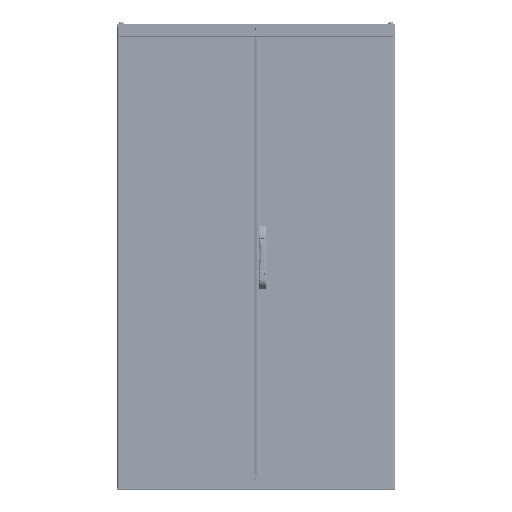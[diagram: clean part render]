
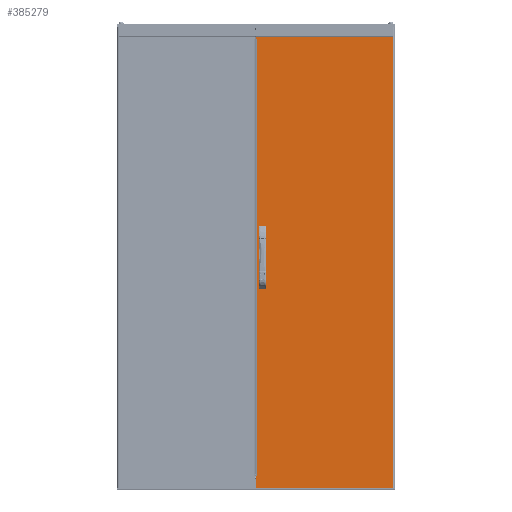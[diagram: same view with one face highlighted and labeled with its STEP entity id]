
A CAD part, top view. The second image highlights one B-rep face of the part: STEP entity #385279.
In plain terms, the highlighted planar face has unit normal (0, 0, 1) as drawn and (0, -1, 0) by its records, which use the part's own axes.
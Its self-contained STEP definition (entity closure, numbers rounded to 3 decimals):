
#784 = DIRECTION ( 'NONE',  ( 0., -1., 0. ) ) ;
#4922 = CARTESIAN_POINT ( 'NONE',  ( 1932.21, 0., -589. ) ) ;
#6219 = PLANE ( 'NONE',  #118475 ) ;
#8284 = DIRECTION ( 'NONE',  ( 0., -1., 0. ) ) ;
#9882 = EDGE_LOOP ( 'NONE', ( #94327, #72635 ) ) ;
#11630 = EDGE_CURVE ( 'NONE', #210668, #138654, #133786, .T. ) ;
#13695 = DIRECTION ( 'NONE',  ( 0., -1., 0. ) ) ;
#14839 = CARTESIAN_POINT ( 'NONE',  ( 958.745, 0., -27. ) ) ;
#20155 = EDGE_CURVE ( 'NONE', #61549, #102252, #159869, .T. ) ;
#20998 = DIRECTION ( 'NONE',  ( 0., 0., -1. ) ) ;
#35706 = DIRECTION ( 'NONE',  ( -1., 0., 0. ) ) ;
#35717 = EDGE_CURVE ( 'NONE', #354387, #138654, #243436, .T. ) ;
#38845 = VERTEX_POINT ( 'NONE', #307408 ) ;
#43918 = EDGE_LOOP ( 'NONE', ( #306745, #370960 ) ) ;
#45093 = CIRCLE ( 'NONE', #157538, 2.85 ) ;
#45331 = VERTEX_POINT ( 'NONE', #146193 ) ;
#52255 = CARTESIAN_POINT ( 'NONE',  ( 0., 0., -589. ) ) ;
#60489 = VECTOR ( 'NONE', #152979, 1000. ) ;
#61549 = VERTEX_POINT ( 'NONE', #280930 ) ;
#63081 = VERTEX_POINT ( 'NONE', #202003 ) ;
#63253 = CIRCLE ( 'NONE', #374399, 2.85 ) ;
#63420 = LINE ( 'NONE', #67494, #68036 ) ;
#64153 = LINE ( 'NONE', #350320, #99828 ) ;
#67359 = EDGE_CURVE ( 'NONE', #63081, #81572, #410079, .T. ) ;
#67397 = VERTEX_POINT ( 'NONE', #337635 ) ;
#67494 = CARTESIAN_POINT ( 'NONE',  ( 0., 0., -22.75 ) ) ;
#68036 = VECTOR ( 'NONE', #166968, 1000. ) ;
#68182 = DIRECTION ( 'NONE',  ( 0., 0., 1. ) ) ;
#69462 = CARTESIAN_POINT ( 'NONE',  ( 0., 0., 0. ) ) ;
#72635 = ORIENTED_EDGE ( 'NONE', *, *, #322997, .F. ) ;
#74372 = VERTEX_POINT ( 'NONE', #353343 ) ;
#76174 = LINE ( 'NONE', #78255, #259566 ) ;
#78255 = CARTESIAN_POINT ( 'NONE',  ( 0., 0., -589. ) ) ;
#81572 = VERTEX_POINT ( 'NONE', #104192 ) ;
#82821 = EDGE_CURVE ( 'NONE', #345431, #225820, #63420, .T. ) ;
#85276 = DIRECTION ( 'NONE',  ( 0., -1., 0. ) ) ;
#87814 = CARTESIAN_POINT ( 'NONE',  ( 1982.99, 0., -589. ) ) ;
#88338 = ORIENTED_EDGE ( 'NONE', *, *, #82821, .F. ) ;
#93961 = FACE_BOUND ( 'NONE', #43918, .T. ) ;
#94327 = ORIENTED_EDGE ( 'NONE', *, *, #305998, .F. ) ;
#97320 = DIRECTION ( 'NONE',  ( 0., 0., -1. ) ) ;
#97773 = AXIS2_PLACEMENT_3D ( 'NONE', #14839, #85276, #20998 ) ;
#99828 = VECTOR ( 'NONE', #68182, 1000. ) ;
#100217 = DIRECTION ( 'NONE',  ( 0., 0., -1. ) ) ;
#102252 = VERTEX_POINT ( 'NONE', #183228 ) ;
#104192 = CARTESIAN_POINT ( 'NONE',  ( 1024.245, 0., -31.25 ) ) ;
#105710 = FACE_BOUND ( 'NONE', #9882, .T. ) ;
#116930 = DIRECTION ( 'NONE',  ( 0., 0., 1. ) ) ;
#118475 = AXIS2_PLACEMENT_3D ( 'NONE', #136816, #8284, #263292 ) ;
#121616 = AXIS2_PLACEMENT_3D ( 'NONE', #319997, #784, #226749 ) ;
#127589 = VECTOR ( 'NONE', #116930, 1000. ) ;
#128271 = CARTESIAN_POINT ( 'NONE',  ( 1106.497, 0., -27. ) ) ;
#129544 = VECTOR ( 'NONE', #195977, 1000. ) ;
#133148 = DIRECTION ( 'NONE',  ( 0., 0., 1. ) ) ;
#133349 = ORIENTED_EDGE ( 'NONE', *, *, #11630, .F. ) ;
#133786 = LINE ( 'NONE', #69462, #129544 ) ;
#136816 = CARTESIAN_POINT ( 'NONE',  ( 0., 0., -589. ) ) ;
#138654 = VERTEX_POINT ( 'NONE', #311704 ) ;
#139306 = CARTESIAN_POINT ( 'NONE',  ( 0., 0., 0. ) ) ;
#143543 = VECTOR ( 'NONE', #133148, 1000. ) ;
#144755 = VECTOR ( 'NONE', #349234, 1000. ) ;
#146193 = CARTESIAN_POINT ( 'NONE',  ( 1932.21, 0., -1.51 ) ) ;
#152979 = DIRECTION ( 'NONE',  ( 1., 0., 0. ) ) ;
#154355 = ORIENTED_EDGE ( 'NONE', *, *, #318572, .F. ) ;
#155647 = VERTEX_POINT ( 'NONE', #260561 ) ;
#155661 = AXIS2_PLACEMENT_3D ( 'NONE', #309401, #13695, #338571 ) ;
#157538 = AXIS2_PLACEMENT_3D ( 'NONE', #128271, #381298, #350176 ) ;
#159869 = CIRCLE ( 'NONE', #199506, 2.85 ) ;
#166968 = DIRECTION ( 'NONE',  ( -1., 0., 0. ) ) ;
#172805 = ORIENTED_EDGE ( 'NONE', *, *, #251397, .T. ) ;
#183228 = CARTESIAN_POINT ( 'NONE',  ( 1106.497, 0., -29.85 ) ) ;
#195297 = CIRCLE ( 'NONE', #155661, 2.85 ) ;
#195314 = DIRECTION ( 'NONE',  ( 1., 0., 0. ) ) ;
#195329 = LINE ( 'NONE', #321757, #209590 ) ;
#195977 = DIRECTION ( 'NONE',  ( 1., 0., 0. ) ) ;
#199506 = AXIS2_PLACEMENT_3D ( 'NONE', #257797, #384349, #100217 ) ;
#202003 = CARTESIAN_POINT ( 'NONE',  ( 958.745, 0., -31.25 ) ) ;
#203560 = LINE ( 'NONE', #139306, #143543 ) ;
#205579 = ORIENTED_EDGE ( 'NONE', *, *, #383819, .F. ) ;
#209590 = VECTOR ( 'NONE', #35706, 1000. ) ;
#210668 = VERTEX_POINT ( 'NONE', #321222 ) ;
#217678 = CARTESIAN_POINT ( 'NONE',  ( 876.493, 0., -27. ) ) ;
#219551 = ORIENTED_EDGE ( 'NONE', *, *, #326791, .T. ) ;
#220715 = EDGE_CURVE ( 'NONE', #45331, #38845, #195329, .T. ) ;
#224276 = VERTEX_POINT ( 'NONE', #52255 ) ;
#225820 = VERTEX_POINT ( 'NONE', #251218 ) ;
#226749 = DIRECTION ( 'NONE',  ( 0., 0., -1. ) ) ;
#230177 = FACE_OUTER_BOUND ( 'NONE', #291830, .T. ) ;
#242144 = CARTESIAN_POINT ( 'NONE',  ( 1024.245, 0., -22.75 ) ) ;
#242246 = ORIENTED_EDGE ( 'NONE', *, *, #321132, .F. ) ;
#242812 = EDGE_CURVE ( 'NONE', #224276, #74372, #203560, .T. ) ;
#243422 = ORIENTED_EDGE ( 'NONE', *, *, #257870, .F. ) ;
#243436 = LINE ( 'NONE', #87814, #127589 ) ;
#251218 = CARTESIAN_POINT ( 'NONE',  ( 958.745, 0., -22.75 ) ) ;
#251397 = EDGE_CURVE ( 'NONE', #210668, #45331, #351283, .T. ) ;
#255551 = LINE ( 'NONE', #384129, #352797 ) ;
#257797 = CARTESIAN_POINT ( 'NONE',  ( 1106.497, 0., -27. ) ) ;
#257870 = EDGE_CURVE ( 'NONE', #74372, #67397, #255551, .T. ) ;
#259184 = FACE_BOUND ( 'NONE', #403932, .T. ) ;
#259566 = VECTOR ( 'NONE', #397650, 1000. ) ;
#260561 = CARTESIAN_POINT ( 'NONE',  ( 876.493, 0., -29.85 ) ) ;
#263292 = DIRECTION ( 'NONE',  ( 0., 0., -1. ) ) ;
#280930 = CARTESIAN_POINT ( 'NONE',  ( 1106.497, 0., -24.15 ) ) ;
#281680 = ORIENTED_EDGE ( 'NONE', *, *, #242812, .F. ) ;
#283834 = ORIENTED_EDGE ( 'NONE', *, *, #35717, .T. ) ;
#291830 = EDGE_LOOP ( 'NONE', ( #133349, #172805, #372162, #219551, #243422, #281680, #154355, #283834 ) ) ;
#300373 = CIRCLE ( 'NONE', #121616, 4.25 ) ;
#305998 = EDGE_CURVE ( 'NONE', #349752, #155647, #195297, .T. ) ;
#306745 = ORIENTED_EDGE ( 'NONE', *, *, #20155, .F. ) ;
#307408 = CARTESIAN_POINT ( 'NONE',  ( 50.78, 0., -1.51 ) ) ;
#309357 = ORIENTED_EDGE ( 'NONE', *, *, #67359, .F. ) ;
#309401 = CARTESIAN_POINT ( 'NONE',  ( 876.493, 0., -27. ) ) ;
#310493 = CARTESIAN_POINT ( 'NONE',  ( 0., 0., -31.25 ) ) ;
#311704 = CARTESIAN_POINT ( 'NONE',  ( 1982.99, 0., 0. ) ) ;
#312281 = EDGE_CURVE ( 'NONE', #102252, #61549, #45093, .T. ) ;
#318572 = EDGE_CURVE ( 'NONE', #354387, #224276, #76174, .T. ) ;
#319997 = CARTESIAN_POINT ( 'NONE',  ( 1024.245, 0., -27. ) ) ;
#321132 = EDGE_CURVE ( 'NONE', #81572, #345431, #300373, .T. ) ;
#321222 = CARTESIAN_POINT ( 'NONE',  ( 1932.21, 0., 0. ) ) ;
#321757 = CARTESIAN_POINT ( 'NONE',  ( 1932.21, 0., -1.51 ) ) ;
#322997 = EDGE_CURVE ( 'NONE', #155647, #349752, #63253, .T. ) ;
#326791 = EDGE_CURVE ( 'NONE', #38845, #67397, #64153, .T. ) ;
#337635 = CARTESIAN_POINT ( 'NONE',  ( 50.78, 0., 0. ) ) ;
#338571 = DIRECTION ( 'NONE',  ( 0., 0., -1. ) ) ;
#345431 = VERTEX_POINT ( 'NONE', #242144 ) ;
#349234 = DIRECTION ( 'NONE',  ( 0., 0., -1. ) ) ;
#349752 = VERTEX_POINT ( 'NONE', #373194 ) ;
#350176 = DIRECTION ( 'NONE',  ( 0., 0., -1. ) ) ;
#350299 = DIRECTION ( 'NONE',  ( 0., -1., 0. ) ) ;
#350320 = CARTESIAN_POINT ( 'NONE',  ( 50.78, 0., -589. ) ) ;
#351283 = LINE ( 'NONE', #4922, #144755 ) ;
#352797 = VECTOR ( 'NONE', #195314, 1000. ) ;
#353343 = CARTESIAN_POINT ( 'NONE',  ( 0., 0., 0. ) ) ;
#354387 = VERTEX_POINT ( 'NONE', #373312 ) ;
#355892 = CIRCLE ( 'NONE', #97773, 4.25 ) ;
#370960 = ORIENTED_EDGE ( 'NONE', *, *, #312281, .F. ) ;
#372162 = ORIENTED_EDGE ( 'NONE', *, *, #220715, .T. ) ;
#373194 = CARTESIAN_POINT ( 'NONE',  ( 876.493, 0., -24.15 ) ) ;
#373312 = CARTESIAN_POINT ( 'NONE',  ( 1982.99, 0., -589. ) ) ;
#374399 = AXIS2_PLACEMENT_3D ( 'NONE', #217678, #350299, #97320 ) ;
#381298 = DIRECTION ( 'NONE',  ( 0., -1., 0. ) ) ;
#383819 = EDGE_CURVE ( 'NONE', #225820, #63081, #355892, .T. ) ;
#384129 = CARTESIAN_POINT ( 'NONE',  ( 0., 0., 0. ) ) ;
#384349 = DIRECTION ( 'NONE',  ( 0., -1., 0. ) ) ;
#385279 = ADVANCED_FACE ( 'NONE', ( #259184, #93961, #105710, #230177 ), #6219, .T. ) ;
#397650 = DIRECTION ( 'NONE',  ( -1., 0., 0. ) ) ;
#403932 = EDGE_LOOP ( 'NONE', ( #205579, #88338, #242246, #309357 ) ) ;
#410079 = LINE ( 'NONE', #310493, #60489 ) ;
